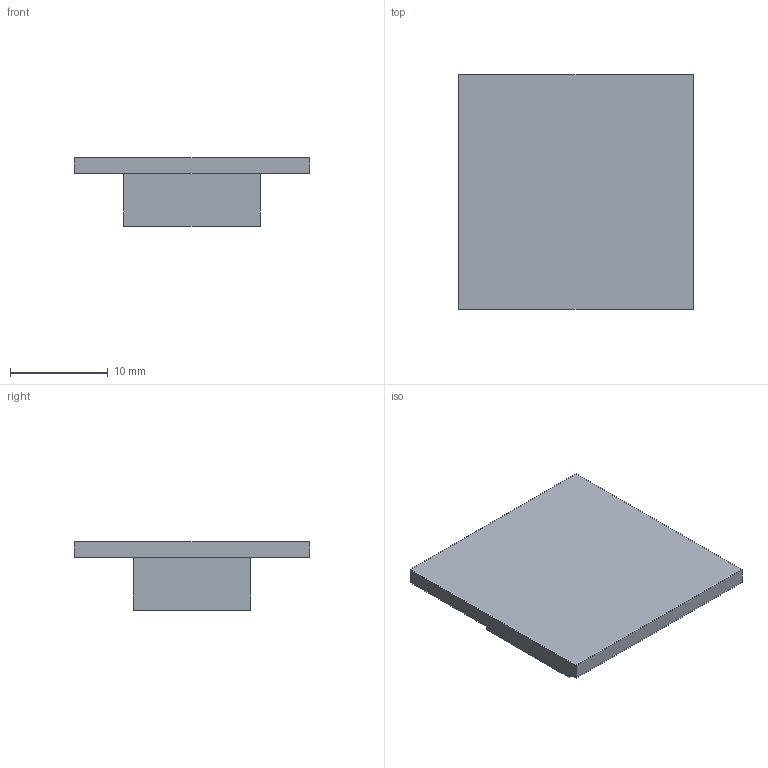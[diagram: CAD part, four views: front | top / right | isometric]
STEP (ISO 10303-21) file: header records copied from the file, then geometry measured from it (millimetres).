
FILE_DESCRIPTION(('Open CASCADE Model'),'2;1');
FILE_NAME('Open CASCADE Shape Model','2026-10-01T12:35:22',('Author'),( 'Open CASCADE'),'Open CASCADE STEP processor 7.8','Open CASCADE 7.8' ,'Unknown');
FILE_SCHEMA(('AUTOMOTIVE_DESIGN { 1 0 10303 214 1 1 1 1 }'));
Length unit declared in the file: millimetre
Products named in the file (2): E05_TTP223_MD0206_provisional; E05_TTP223_MD0206_provisional_solid
Assembly tree (1 placements, depth 2):
  E05_TTP223_MD0206_provisional
    E05_TTP223_MD0206_provisional_solid
Bounding box: 24 x 24 x 7 mm (x, y, z)
Volume: 1828.8 mm3; surface area: 1586.4 mm2
Topology: 1 solids, 1 shells, 11 faces, 24 edges, 16 vertices
Faces by surface type: plane 11
Entity records: 647 total; most frequent: CARTESIAN_POINT 101, DIRECTION 98, LINE 72, VECTOR 72, ORIENTED_EDGE 48, PCURVE 48, DEFINITIONAL_REPRESENTATION 48, EDGE_CURVE 24
